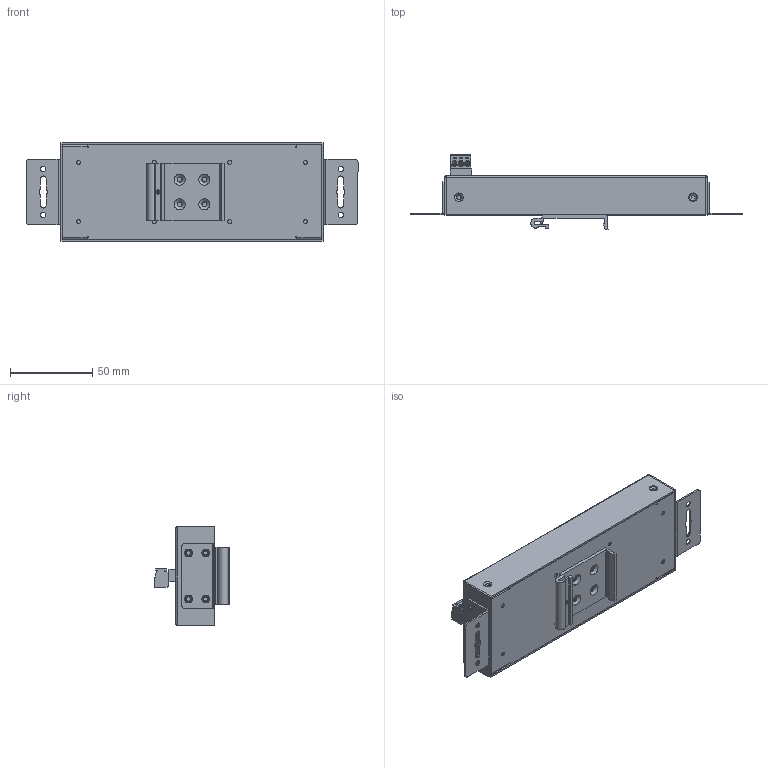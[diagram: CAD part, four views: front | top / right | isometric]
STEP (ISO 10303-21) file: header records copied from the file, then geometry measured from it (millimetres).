
FILE_DESCRIPTION(/* description */ (''),/* implementation_level */ '2;1');
FILE_NAME(/* name */ 'C:/Users/Leo/Desktop/CoolGear/GM-HU310DW/GM-HU310DW Model3DLPV1.step',/* time_stamp */ '2021-04-13T16:55:16-04:00',/* author */ (''),/* organization */ (''),/* preprocessor_version */ 'ST-DEVELOPER v18.1',/* originating_system */ 'Autodesk Translation Framework v10.6.0.1341',/* authorisation */ '');
FILE_SCHEMA (('AUTOMOTIVE_DESIGN { 1 0 10303 214 3 1 1 }'));
Products named in the file (18): GM-HU310DW; Clip; Mounting plate 1; Mouting plate; Base (1); logo gearmo 1 v1; germo logo v1; Component3; Component4; Component11; Component12; Component5; Component6; Component7; Component8; Component9; Component10; Terminal 3 Connector 3.5 v1
Assembly tree (17 placements, depth 5):
  GM-HU310DW
    Clip
    Mounting plate 1
    Mouting plate
    Base (1)
    logo gearmo 1 v1
      germo logo v1
      Component3
      Component4
        Component11
          Component12
      Component5
      Component6
      Component7
      Component8
      Component9
      Component10
    Terminal 3 Connector 3.5 v1
Bounding box: 202 x 45.95 x 60 mm (x, y, z)
Volume: 188678.5 mm3; surface area: 83805 mm2
Topology: 21 solids, 21 shells, 3283 faces, 9076 edges, 5948 vertices
Faces by surface type: cylinder 2140, plane 968, torus 82, bspline 66, cone 26, sphere 1
Full cylindrical faces by diameter (mm): 1.2 x3, 1.5 x1, 2 x7, 2.5 x20, 2.8 x6, 3 x22, 3.2 x21, 4.5 x12, 5 x12, 6.3 x1
Entity records: 118138 total; most frequent: CARTESIAN_POINT 30020, DIRECTION 19633, ORIENTED_EDGE 18150, EDGE_CURVE 9075, AXIS2_PLACEMENT_3D 7566, VERTEX_POINT 5948, LINE 4501, VECTOR 4501
